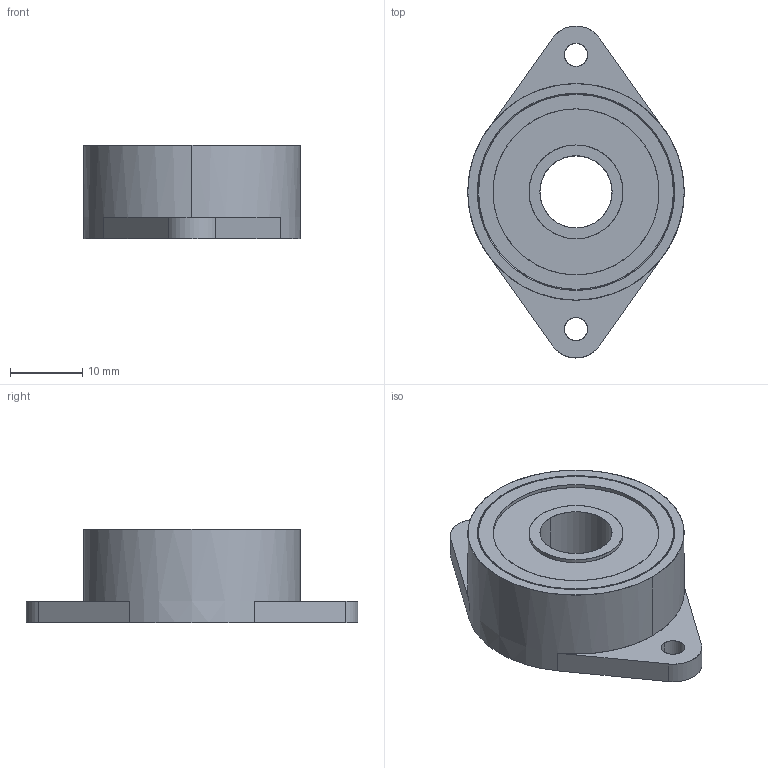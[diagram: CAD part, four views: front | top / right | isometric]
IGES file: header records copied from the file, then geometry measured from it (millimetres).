
Start section: SolidWorks IGES file using analytic representation for surfaces
Global section: file name: C:\3D-DATA\型式\R\【提出用】\IGS\FFD-30FS.IGS; native system: SolidWorks 2014; preprocessor: SolidWorks 2014; author: flgijutsu; date: 140516.195301; units: millimetre
Bounding box: 30 x 46 x 13 mm (x, y, z)
Surface area: 3923.2 mm2 (no closed solid volume)
Topology: 0 solids, 0 shells, 100 faces, 1308 edges, 1308 vertices
Faces by surface type: revolution 65, bspline 35
